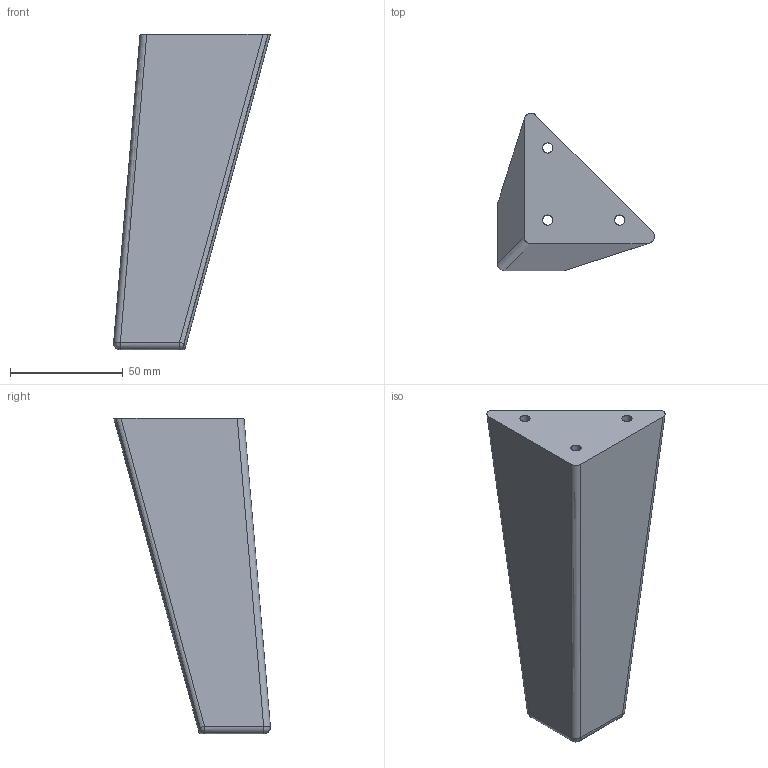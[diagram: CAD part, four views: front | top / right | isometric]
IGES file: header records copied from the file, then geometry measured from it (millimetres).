
Start section: C
Global section: file name: 8353-140.igs; native system: By Siemens PLM Incorporated; preprocessor: XPlus GENERIC/IGES 16.0.42; author: Author; organization: Title; date: 20230815.081859; units: millimetre
Bounding box: 69.61 x 69.61 x 140 mm (x, y, z)
Surface area: 43770 mm2 (no closed solid volume)
Topology: 0 solids, 0 shells, 472 faces, 2859 edges, 2856 vertices
Faces by surface type: bspline 472
